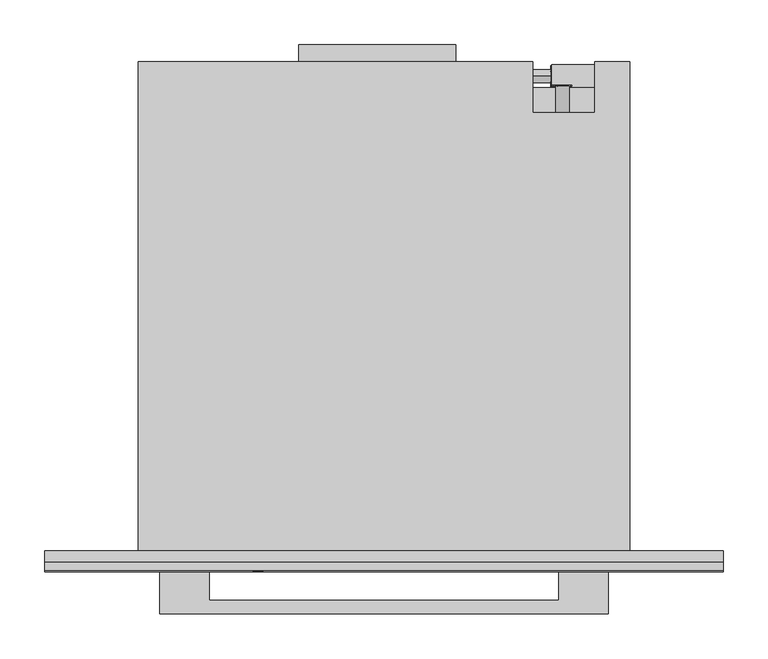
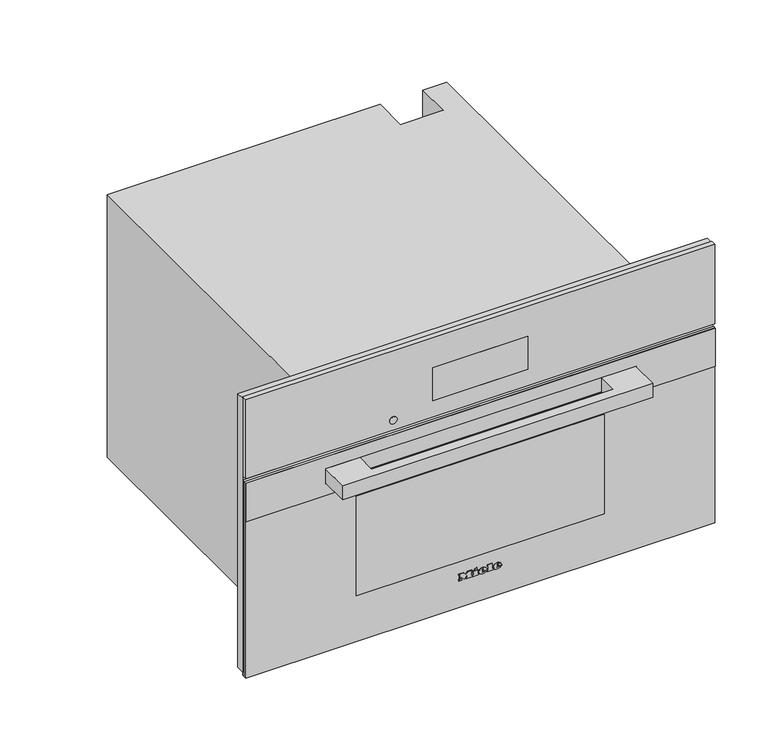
"""IFC4 building model written with IfcOpenShell, lengths in millimetres: proxy geometry, 11876050_USA_DGC7875_EDST-CLST : 23787542_USA_11876050_DGC7875_EDST-CLST."""

import ifcopenshell
import ifcopenshell.guid

model = None  # the IFC model being written
_history = None  # IfcOwnerHistory: only IFC2X3 demands one
_inside = {}  # id of a spatial element -> (the spatial element, [elements in it])
_under = {}  # id of a project, library or spatial element -> (it, [spatial elements below it])
_declared = {}  # id of a project -> (the project, [libraries it declares])
_typed = {}  # id of a type object -> (the type object, [elements of that type])
_made_of = {}  # id of a material, layer set ... -> (it, [elements and type objects made of it])


def new_model(schema):
    """Start an empty IFC model of exactly this schema.

    Asked for "IFC4X3", IfcOpenShell would pick the latest addendum, in which some entities
    have other attributes; the version numbers below select the first issue.
    IFC2X3 requires an IfcOwnerHistory on every rooted entity: one is made here for all.
    """
    global model, _history
    if schema == "IFC4X3":
        model = ifcopenshell.file(schema_version=(4, 3, 0, 0))
    else:
        model = ifcopenshell.file(schema=schema)
    _inside.clear()
    _under.clear()
    _declared.clear()
    _typed.clear()
    _made_of.clear()
    _history = None
    if model.schema == "IFC2X3":
        org = make("IfcOrganization", Name="unknown")
        user = make(
            "IfcPersonAndOrganization",
            ThePerson=make("IfcPerson", FamilyName="unknown"),
            TheOrganization=org,
        )
        app = make(
            "IfcApplication",
            ApplicationDeveloper=org,
            Version="unknown",
            ApplicationFullName="unknown",
            ApplicationIdentifier="unknown",
        )
        _history = make(
            "IfcOwnerHistory",
            OwningUser=user,
            OwningApplication=app,
            ChangeAction="ADDED",
            CreationDate=0,
        )
    return model


def make(cls, **values):
    """One entity of the class cls with the attributes given. An attribute that is None is left unset."""
    return model.create_entity(
        cls, **{name: value for name, value in values.items() if value is not None}
    )


def rooted(cls, **values):
    """An entity with a GlobalId (a new one), such as an element, a storey or a relation."""
    return make(cls, GlobalId=ifcopenshell.guid.new(), OwnerHistory=_history, **values)


def si_unit(unit_type, name, prefix=None):
    """IfcSIUnit, for example si_unit("LENGTHUNIT", "METRE", prefix="MILLI")."""
    return make("IfcSIUnit", UnitType=unit_type, Prefix=prefix, Name=name)


def assignment(units):
    """IfcUnitAssignment: the units of a project."""
    return None if units is None else make("IfcUnitAssignment", Units=units)


def point(xyz):
    """IfcCartesianPoint."""
    return None if xyz is None else make("IfcCartesianPoint", Coordinates=xyz)


def direction(xyz):
    """IfcDirection."""
    return None if xyz is None else make("IfcDirection", DirectionRatios=xyz)


def frame(location, z_axis=None, x_axis=None):
    """IfcAxis2Placement3D, a coordinate frame: its origin and axes. An axis left out is left unset."""
    return make(
        "IfcAxis2Placement3D",
        Location=point(location),
        Axis=direction(z_axis),
        RefDirection=direction(x_axis),
    )


def frame_2d(location, x_axis=None):
    """IfcAxis2Placement2D, a coordinate frame in the plane: its origin and x axis."""
    return make(
        "IfcAxis2Placement2D", Location=point(location), RefDirection=direction(x_axis)
    )


def origin():
    """The frame at (0, 0, 0) with its axes left unset."""
    return frame((0.0, 0.0, 0.0))


def place(relative_to, where):
    """IfcLocalPlacement: puts the frame where relative to a parent placement (None: the world)."""
    return make(
        "IfcLocalPlacement", PlacementRelTo=relative_to, RelativePlacement=where
    )


def context(
    kind, dimensions, precision=None, world=None, true_north=None, identifier=None
):
    """IfcGeometricRepresentationContext, for example the 3D "Model" context."""
    return make(
        "IfcGeometricRepresentationContext",
        ContextIdentifier=identifier,
        ContextType=kind,
        CoordinateSpaceDimension=dimensions,
        Precision=precision,
        WorldCoordinateSystem=world,
        TrueNorth=true_north,
    )


def project(units=None, contexts=None):
    """IfcProject with its units and contexts."""
    return rooted(
        "IfcProject",
        Name="project",
        RepresentationContexts=contexts,
        UnitsInContext=assignment(units),
    )


def spatial(cls, under=None, at=None, **own):
    """A site, building, storey or space (cls), placed at a placement, below another one or the project."""
    s = rooted(cls, ObjectPlacement=at, **own)
    if under is not None:
        _under.setdefault(under.id(), (under, []))[1].append(s)
    return s


def polyline(points):
    """IfcPolyline through the points."""
    return make("IfcPolyline", Points=[point(p) for p in points])


def circle_curve(where, radius):
    """IfcCircle in the frame where."""
    return make("IfcCircle", Position=where, Radius=radius)


def ellipse_curve(where, semi_axis1, semi_axis2):
    """IfcEllipse in the frame where."""
    return make(
        "IfcEllipse", Position=where, SemiAxis1=semi_axis1, SemiAxis2=semi_axis2
    )


def trimmed(basis, trim1, trim2, sense, master):
    """IfcTrimmedCurve: the piece of a basis curve between two trims."""
    return make(
        "IfcTrimmedCurve",
        BasisCurve=basis,
        Trim1=trim1,
        Trim2=trim2,
        SenseAgreement=sense,
        MasterRepresentation=master,
    )


def segment(curve, same_sense, transition):
    """IfcCompositeCurveSegment."""
    return make(
        "IfcCompositeCurveSegment",
        Transition=transition,
        SameSense=same_sense,
        ParentCurve=curve,
    )


def composite_curve(segments, self_intersect=None):
    """IfcCompositeCurve: segments joined end to end."""
    return make("IfcCompositeCurve", Segments=segments, SelfIntersect=self_intersect)


def outline(outer, holes=None, kind="AREA"):
    """IfcArbitraryClosedProfileDef: a profile drawn as a closed curve; with holes, ...WithVoids."""
    if holes is None:
        return make("IfcArbitraryClosedProfileDef", ProfileType=kind, OuterCurve=outer)
    return make(
        "IfcArbitraryProfileDefWithVoids",
        ProfileType=kind,
        OuterCurve=outer,
        InnerCurves=holes,
    )


def extrude(swept, where, along, depth):
    """IfcExtrudedAreaSolid: the profile swept, set in the frame where, extruded along a direction by depth."""
    return make(
        "IfcExtrudedAreaSolid",
        SweptArea=swept,
        Position=where,
        ExtrudedDirection=direction(along),
        Depth=depth,
    )


def faces_of(points, faces, orient=None, outer=None):
    """IfcFace entities. A face is a list of loops; a loop is a list of indices into points, from 0.

    orient and outer hold one flag for each loop. By default every Orientation is true, the
    first loop of a face is its IfcFaceOuterBound and the others are IfcFaceBound.
    """
    made = []
    for i, loops in enumerate(faces):
        bounds = []
        for j, loop in enumerate(loops):
            is_outer = j == 0 if outer is None else outer[i][j]
            bounds.append(
                make(
                    "IfcFaceOuterBound" if is_outer else "IfcFaceBound",
                    Bound=make("IfcPolyLoop", Polygon=[points[k] for k in loop]),
                    Orientation=True if orient is None else orient[i][j],
                )
            )
        made.append(make("IfcFace", Bounds=bounds))
    return made


def faceted_brep(points, faces, orient=None, outer=None, voids=None):
    """IfcFacetedBrep: a solid bounded by flat faces; with voids (closed shells), ...WithVoids."""
    shared = [point(p) for p in points]
    hull = make("IfcClosedShell", CfsFaces=faces_of(shared, faces, orient, outer))
    if voids is None:
        return make("IfcFacetedBrep", Outer=hull)
    return make(
        "IfcFacetedBrepWithVoids",
        Outer=hull,
        Voids=[
            make(cls, CfsFaces=faces_of(shared, fs, o, b)) for cls, fs, o, b in voids
        ],
    )


def shape(context_of_items, identifier, shape_type, items):
    """IfcShapeRepresentation: the items that make up one representation, for example the "Body"."""
    return make(
        "IfcShapeRepresentation",
        ContextOfItems=context_of_items,
        RepresentationIdentifier=identifier,
        RepresentationType=shape_type,
        Items=items,
    )


def source(mapping_origin, context_of_items, identifier, shape_type, items):
    """IfcRepresentationMap: a shape defined once, which mapped items show again and again."""
    return make(
        "IfcRepresentationMap",
        MappingOrigin=mapping_origin,
        MappedRepresentation=shape(context_of_items, identifier, shape_type, items),
    )


def transform(
    local_origin,
    x_axis=None,
    y_axis=None,
    z_axis=None,
    scale=None,
    scale2=None,
    scale3=None,
    uniform=True,
):
    """IfcCartesianTransformationOperator3D, or its non-uniform kind. x_axis, y_axis, z_axis: its Axis1, 2, 3."""
    if uniform:
        return make(
            "IfcCartesianTransformationOperator3D",
            Axis1=direction(x_axis),
            Axis2=direction(y_axis),
            LocalOrigin=point(local_origin),
            Scale=scale,
            Axis3=direction(z_axis),
        )
    return make(
        "IfcCartesianTransformationOperator3DnonUniform",
        Axis1=direction(x_axis),
        Axis2=direction(y_axis),
        LocalOrigin=point(local_origin),
        Scale=scale,
        Axis3=direction(z_axis),
        Scale2=scale2,
        Scale3=scale3,
    )


def mapped(mapping_source, mapping_target):
    """IfcMappedItem: shows the shape of a source again, moved by a transform."""
    return make(
        "IfcMappedItem", MappingSource=mapping_source, MappingTarget=mapping_target
    )


def made_of(thing, what):
    """Note that an element or type object is made of a material, layer set ...; save() writes the relation."""
    if what is not None:
        _made_of.setdefault(what.id(), (what, []))[1].append(thing)
    return thing


def element(
    cls,
    number,
    at=None,
    inside=None,
    cuts=None,
    type_object=None,
    material=None,
    context=None,
    identifier="Body",
    shape_type=None,
    held_by="IfcProductDefinitionShape",
    body=None,
    shapes=None,
    **own,
):
    """One element of the class cls, such as IfcWall. Its Tag is "e" and its number.

    at: its placement. inside: the storey or other place that contains it. cuts: it is an
    opening in that element (IfcRelVoidsElement). A single representation is given by context,
    identifier, shape_type and body (its items); several are given by shapes. held_by: the class
    of the entity that holds the representations. save() writes the other relations.
    """
    e = rooted(cls, Tag="e%d" % number, ObjectPlacement=at, **own)
    if body is not None:
        shapes = [shape(context, identifier, shape_type, body)]
    if shapes is not None:
        e.Representation = make(held_by, Representations=shapes)
    if inside is not None:
        _inside.setdefault(inside.id(), (inside, []))[1].append(e)
    if cuts is not None:
        rooted(
            "IfcRelVoidsElement", RelatingBuildingElement=cuts, RelatedOpeningElement=e
        )
    if type_object is not None:
        _typed.setdefault(type_object.id(), (type_object, []))[1].append(e)
    return made_of(e, material)


def aggregate(whole, parts):
    """IfcRelAggregates: a whole, such as a stair, and the parts it consists of."""
    return rooted("IfcRelAggregates", RelatingObject=whole, RelatedObjects=parts)


def save(model, path):
    """Write the relations noted so far, then the file.

    IfcRelAggregates (storeys below a building ...), IfcRelContainedInSpatialStructure (elements
    in a storey), IfcRelDefinesByType, IfcRelAssociatesMaterial and IfcRelDeclares: one each for
    every whole, place, type object, material and project.
    """
    for whole, parts in _under.values():
        aggregate(whole, parts)
    for where, things in _inside.values():
        rooted(
            "IfcRelContainedInSpatialStructure",
            RelatedElements=things,
            RelatingStructure=where,
        )
    for kind, things in _typed.values():
        rooted("IfcRelDefinesByType", RelatedObjects=things, RelatingType=kind)
    for what, things in _made_of.values():
        rooted("IfcRelAssociatesMaterial", RelatedObjects=things, RelatingMaterial=what)
    for by, libraries in _declared.values():
        rooted("IfcRelDeclares", RelatingContext=by, RelatedDefinitions=libraries)
    model.write(path)


def plane_surface(at):
    """IfcPlane: the flat surface through the origin of the frame at, square to its z axis."""
    return make("IfcPlane", Position=at)


def cylinder_surface(at, radius):
    """IfcCylindricalSurface: all points at the distance radius from the z axis of the frame at."""
    return make("IfcCylindricalSurface", Position=at, Radius=radius)


def revolved_surface(curve, axis_point, axis_direction):
    """IfcSurfaceOfRevolution: the curve turned about the line through axis_point along axis_direction."""
    return make(
        "IfcSurfaceOfRevolution",
        SweptCurve=make("IfcArbitraryOpenProfileDef", ProfileType="CURVE", Curve=curve),
        AxisPosition=make("IfcAxis1Placement", Location=point(axis_point), Axis=direction(axis_direction)),
    )


def extruded_surface(curve, direction_of_extrusion, depth):
    """IfcSurfaceOfLinearExtrusion: the curve pushed along a direction by depth."""
    return make(
        "IfcSurfaceOfLinearExtrusion",
        SweptCurve=make("IfcArbitraryOpenProfileDef", ProfileType="CURVE", Curve=curve),
        ExtrudedDirection=direction(direction_of_extrusion),
        Depth=depth,
    )


def advanced_brep(points, edges, surfaces, faces):
    """IfcAdvancedBrep: a solid bounded by faces that lie on surfaces and meet in shared edges.

    An edge is (start, end): straight between two places in points (the first is 0);
    or (start, end, curve); or (start, end, curve, False) where it runs against its curve.
    A face is (place in surfaces, loops), or (place, loops, False) where it looks against
    its surface's normal. A loop lists edges by number (the first is 1), with a minus sign
    where the edge is run from its end to its start. The first loop is the outer one.
    """
    corners = [point(p) for p in points]
    vertices = [make("IfcVertexPoint", VertexGeometry=c) for c in corners]
    made = []
    for start, end, *more in edges:
        made.append(
            make(
                "IfcEdgeCurve",
                EdgeStart=vertices[start],
                EdgeEnd=vertices[end],
                EdgeGeometry=more[0] if more else make("IfcPolyline", Points=[corners[start], corners[end]]),
                SameSense=more[1] if len(more) > 1 else True,
            )
        )
    hull = []
    for where, loops, *sense in faces:
        bounds = []
        for j, loop in enumerate(loops):
            ring = [make("IfcOrientedEdge", EdgeElement=made[abs(k) - 1], Orientation=k > 0) for k in loop]
            bounds.append(
                make(
                    "IfcFaceOuterBound" if j == 0 else "IfcFaceBound",
                    Bound=make("IfcEdgeLoop", EdgeList=ring),
                    Orientation=True,
                )
            )
        hull.append(make("IfcAdvancedFace", Bounds=bounds, FaceSurface=surfaces[where], SameSense=sense[0] if sense else True))
    return make("IfcAdvancedBrep", Outer=make("IfcClosedShell", CfsFaces=hull))


def specialty_equipment_21522c0e(model_context):
    return source(origin(), model_context, "Body", "SolidModel", [
        faceted_brep([(378.5, -13.0, 476.0), (-378.5, -13.0, 476.0), (-378.5, -13.0, 9.0), (-272.5, -13.0, 9.0), (-272.5, -13.0, 344.0), (272.5, -13.0, 344.0), (272.5, -13.0, 9.0), (378.5, -13.0, 9.0), (378.5, 0.0, 476.0), (378.5, 0.0, 9.0), (-378.5, 0.0, 9.0), (-378.5, 0.0, 476.0), (231.0, 0.0, 58.0), (231.0, 0.0, 286.0), (-231.0, 0.0, 286.0), (-231.0, 0.0, 58.0), (272.5, -5.0, 9.0), (-272.5, -5.0, 9.0), (-272.5, -5.0, 344.0), (272.5, -5.0, 344.0), (231.0, -5.0, 286.0), (231.0, -5.0, 58.0), (-231.0, -5.0, 58.0), (-231.0, -5.0, 286.0)], [[[0, 1, 2, 3, 4, 5, 6, 7]], [[8, 9, 10, 11], [12, 13, 14, 15]], [[1, 0, 8, 11]], [[2, 1, 11, 10]], [[10, 9, 7, 6, 16, 17, 3, 2]], [[0, 7, 9, 8]], [[18, 19, 5, 4]], [[18, 4, 3, 17]], [[5, 19, 16, 6]], [[19, 18, 17, 16], [20, 21, 22, 23]], [[20, 13, 12, 21]], [[21, 12, 15, 22]], [[22, 15, 14, 23]], [[13, 20, 23, 14]]]),
        extrude(outline(polyline([(-95.0, 565.0), (80.0, 565.0), (80.0, 546.0), (-95.0, 546.0), (-95.0, 565.0)])), frame((0.0, 0.0, 260.0), z_axis=(0.0, 0.0, 1.0), x_axis=(1.0, 0.0, 0.0)), (0.0, 0.0, 1.0), 1.0),
        extrude(outline(polyline([(224.8383288, 537.0), (231.1236409, 537.0), (231.1236409, 526.9492425), (229.8571792, 526.9492425), (229.8571792, 535.7409796), (224.8383288, 535.7409796), (224.8383288, 537.0)])), frame((0.0, 0.0, 132.0), z_axis=(0.0, 0.0, 1.0), x_axis=(1.0, 0.0, 0.0)), (0.0, 0.0, 1.0), 1.0),
        extrude(outline(polyline([(233.0, 537.0), (240.3797826, 537.0), (240.3797826, 526.9503529), (233.15422, 526.9503529), (233.15422, 528.220938), (239.1355215, 528.220938), (239.1355215, 531.1975645), (233.4863097, 531.1975645), (233.4863097, 532.449242), (239.1355215, 532.449242), (239.1355215, 535.7448633), (233.0, 535.7448633), (233.0, 537.0)])), frame((0.0, 0.0, 132.0), z_axis=(0.0, 0.0, 1.0), x_axis=(1.0, 0.0, 0.0)), (0.0, 0.0, 1.0), 1.0),
        extrude(outline(polyline([(519.6429442, 19.9943805), (518.3113439, 19.9943805), (522.3179353, 30.0448542), (523.3959224, 30.0448542), (527.4062166, 20.0), (526.0536081, 20.0), (524.9175759, 23.121223), (520.7810217, 23.121223), (519.6429442, 19.9943805)]), holes=[polyline([(521.2587176, 24.4336815), (524.43988, 24.4336815), (522.8492988, 28.8037675), (521.2587176, 24.4336815)])]), frame((186.0, 0.0, 0.0), z_axis=(1.0, 0.0, 0.0), x_axis=(0.0, 1.0, 0.0)), (0.0, 0.0, 1.0), 1.0),
        extrude(outline(polyline([(530.5321321, 20.0), (527.8018067, 30.0490432), (529.0968223, 30.0490432), (531.1602937, 21.4201336), (533.686646, 30.0556718), (535.5455392, 30.0556718), (538.1024658, 21.4662572), (540.1658975, 30.0556718), (541.4634812, 30.0556718), (538.7128319, 20.0), (537.3799359, 20.0), (534.6350025, 28.8403806), (532.048723, 20.0), (530.5321321, 20.0)])), frame((186.0, 0.0, 0.0), z_axis=(1.0, 0.0, 0.0), x_axis=(0.0, 1.0, 0.0)), (0.0, 0.0, 1.0), 1.0),
        extrude(outline(composite_curve([segment(trimmed(circle_curve(frame_2d((233.0, 532.0)), 7.5), [point((225.5, 532.0))], [point((240.5, 532.0))], False, "CARTESIAN"), True, "CONTINUOUS"), segment(trimmed(circle_curve(frame_2d((233.0, 532.0)), 7.5), [point((240.5, 532.0))], [point((225.5, 532.0))], False, "CARTESIAN"), True, "CONTINUOUS")], self_intersect=False)), frame((0.0, 0.0, 133.0), z_axis=(0.0, 0.0, 1.0), x_axis=(1.0, 0.0, 0.0)), (0.0, 0.0, 1.0), 30.0),
        extrude(outline(polyline([(266.0, 517.0), (187.0, 517.0), (187.0, 543.0), (266.0, 543.0), (266.0, 517.0)])), frame((0.0, 0.0, 163.0), z_axis=(0.0, 0.0, 1.0), x_axis=(1.0, 0.0, 0.0)), (0.0, 0.0, 1.0), 111.0),
        extrude(outline(polyline([(383.0, 196.9217896), (383.0, 198.4267862), (393.0435673, 201.1942402), (393.0435673, 199.9014806), (384.4295103, 197.7797951), (393.0470645, 195.3087512), (393.0470645, 193.4373937), (384.4121052, 190.9191482), (393.0472266, 188.8443938), (393.0472266, 187.5376524), (383.0, 190.2769667), (383.0, 191.6257455), (391.8347238, 194.3884733), (383.0, 196.9217896)])), frame((0.0, 519.0, 0.0), z_axis=(0.0, 1.0, 0.0), x_axis=(0.0, 0.0, 1.0)), (0.0, 0.0, 1.0), 1.0),
        extrude(outline(polyline([(393.0468463, 209.521488), (393.0468463, 208.2566067), (388.129594, 208.2566067), (393.0474898, 203.1074328), (393.0474898, 201.3597489), (388.9313111, 205.6695027), (383.0, 201.1858157), (383.0, 202.7358731), (388.0700777, 206.5685235), (386.4282746, 208.2823622), (383.0, 208.2823622), (383.0, 209.521488), (393.0468463, 209.521488)])), frame((0.0, 519.0, 0.0), z_axis=(0.0, 1.0, 0.0), x_axis=(0.0, 0.0, 1.0)), (0.0, 0.0, 1.0), 1.0),
        extrude(outline(composite_curve([segment(trimmed(circle_curve(frame_2d((388.0, 199.0)), 7.5), [point((388.0, 206.5))], [point((388.0, 191.5))], False, "CARTESIAN"), True, "CONTINUOUS"), segment(trimmed(circle_curve(frame_2d((388.0, 199.0)), 7.5), [point((388.0, 191.5))], [point((388.0, 206.5))], False, "CARTESIAN"), True, "CONTINUOUS")], self_intersect=False)), frame((0.0, 489.0, 0.0), z_axis=(0.0, 1.0, 0.0), x_axis=(0.0, 0.0, 1.0)), (0.0, 0.0, 1.0), 30.0),
        extrude(outline(composite_curve([segment(trimmed(circle_curve(frame_2d((530.0, 25.0)), 7.5), [point((530.0, 17.5))], [point((530.0, 32.5))], False, "CARTESIAN"), True, "CONTINUOUS"), segment(trimmed(circle_curve(frame_2d((530.0, 25.0)), 7.5), [point((530.0, 32.5))], [point((530.0, 17.5))], False, "CARTESIAN"), True, "CONTINUOUS")], self_intersect=False)), frame((166.0, 0.0, 0.0), z_axis=(1.0, 0.0, 0.0), x_axis=(0.0, 1.0, 0.0)), (0.0, 0.0, 1.0), 20.0),
        faceted_brep([(-274.0, 546.0, 0.0), (-274.0, 546.0, 448.0), (166.0, 546.0, 448.0), (166.0, 546.0, 0.0), (235.0, 546.0, 448.0), (274.0, 546.0, 448.0), (274.0, 546.0, 338.0), (235.0, 546.0, 338.0), (274.0, 0.0, 448.0), (-274.0, 0.0, 448.0), (-274.0, 0.0, 0.0), (274.0, 0.0, 0.0), (231.0, 0.0, 286.0), (231.0, 0.0, 58.0), (-231.0, 0.0, 58.0), (-231.0, 0.0, 286.0), (235.0, 489.0, 448.0), (166.0, 489.0, 448.0), (166.0, 517.0, 0.0), (274.0, 517.0, 0.0), (274.0, 517.0, 338.0), (231.0, 411.0, 286.0), (-231.0, 411.0, 286.0), (-231.0, 411.0, 58.0), (231.0, 411.0, 58.0), (235.0, 489.0, 337.0), (166.0, 489.0, 337.0), (166.0, 517.0, 337.0), (235.0, 517.0, 337.0), (235.0, 517.0, 338.0)], [[[0, 1, 2, 3]], [[4, 5, 6, 7]], [[8, 9, 10, 11], [12, 13, 14, 15]], [[9, 8, 5, 4, 16, 17, 2, 1]], [[1, 0, 10, 9]], [[11, 10, 0, 3, 18, 19]], [[8, 11, 19, 20, 6, 5]], [[21, 22, 23, 24]], [[21, 24, 13, 12]], [[24, 23, 14, 13]], [[23, 22, 15, 14]], [[22, 21, 12, 15]], [[16, 25, 26, 17]], [[17, 26, 27, 18, 3, 2]], [[26, 25, 28, 27]], [[25, 16, 4, 7, 29, 28]], [[29, 20, 19, 18, 27, 28]], [[20, 29, 7, 6]]]),
        advanced_brep(
        [(26.2998, -23.0, 52.7018), (26.2998, -23.0, 53.8532), (33.9264, -23.0, 53.8532), (20.6568, -23.0, 53.8532), (23.7918, -23.0, 50.0), (33.7326, -23.0, 52.7018), (30.2898, -23.0, 52.7018), (27.5766, -23.0, 51.425), (26.2998, -23.0, 55.3124), (26.2998, -23.0, 56.555), (28.2492, -23.0, 56.555), (28.2492, -23.0, 55.3124), (26.2998, -22.0, 52.7018), (27.5766, -22.0, 51.425), (30.2898, -22.0, 52.7018), (33.7326, -22.0, 52.7018), (23.7918, -22.0, 50.0), (20.6568, -22.0, 53.8532), (33.9264, -22.0, 53.8532), (26.2998, -22.0, 53.8532), (26.2998, -22.0, 55.3124), (28.2492, -22.0, 55.3124), (28.2492, -22.0, 56.555), (26.2998, -22.0, 56.555)],
        [
            (0, 1),
            (1, 2),
            (2, 3, ellipse_curve(frame((27.2916, -23.0, 53.8532), z_axis=(0.0, -1.0, 0.0), x_axis=(-1.0, 0.0, 0.0)), 6.6348, 5.4834)),
            (3, 4, circle_curve(frame((25.0686622, -23.0, 54.2408), z_axis=(0.0, -1.0, 0.0), x_axis=(0.0, 0.0, -1.0)), 4.4288556)),
            (4, 5, circle_curve(frame((27.1587808, -23.0, 57.2504), z_axis=(0.0, -1.0, 0.0), x_axis=(0.0, 0.0, -1.0)), 7.9940516)),
            (5, 6),
            (6, 7, circle_curve(frame((28.1338588, -23.0, 53.762), z_axis=(0.0, 1.0, 0.0), x_axis=(0.0, 0.0, -1.0)), 2.4025208)),
            (7, 0, circle_curve(frame((27.5766, -23.0, 52.7018), z_axis=(0.0, 1.0, 0.0), x_axis=(0.0, 0.0, -1.0)), 1.2768)),
            (8, 9),
            (9, 10, circle_curve(frame((27.2745, -23.0, 56.555), z_axis=(0.0, 1.0, 0.0), x_axis=(0.0, 0.0, -1.0)), 0.9747)),
            (10, 11),
            (11, 8),
            (12, 13, circle_curve(frame((27.5766, -22.0, 52.7018), z_axis=(0.0, -1.0, 0.0), x_axis=(0.0, 0.0, -1.0)), 1.2768)),
            (13, 14, circle_curve(frame((28.1338588, -22.0, 53.762), z_axis=(0.0, -1.0, 0.0), x_axis=(0.0, 0.0, -1.0)), 2.4025208)),
            (14, 15),
            (15, 16, circle_curve(frame((27.1587808, -22.0, 57.2504), z_axis=(0.0, 1.0, 0.0), x_axis=(0.0, 0.0, -1.0)), 7.9940516)),
            (16, 17, circle_curve(frame((25.0686622, -22.0, 54.2408), z_axis=(0.0, 1.0, 0.0), x_axis=(0.0, 0.0, -1.0)), 4.4288556)),
            (17, 18, ellipse_curve(frame((27.2916, -22.0, 53.8532), z_axis=(0.0, 1.0, 0.0), x_axis=(-1.0, 0.0, 0.0)), 6.6348, 5.4834)),
            (18, 19),
            (19, 12),
            (20, 21),
            (21, 22),
            (22, 23, circle_curve(frame((27.2745, -22.0, 56.555), z_axis=(0.0, -1.0, 0.0), x_axis=(0.0, 0.0, -1.0)), 0.9747)),
            (23, 20),
            (0, 12),
            (19, 1),
            (18, 2),
            (5, 15),
            (14, 6),
            (17, 3),
            (13, 7),
            (16, 4),
            (8, 20),
            (23, 9),
            (22, 10),
            (21, 11),
        ],
        [
            plane_surface(frame((26.2998, -23.0, 53.8532), z_axis=(0.0, -1.0, 0.0), x_axis=(0.0, 0.0, 1.0))),
            plane_surface(frame((26.2998, -22.0, 53.8532), z_axis=(0.0, 1.0, 0.0), x_axis=(0.0, 0.0, -1.0))),
            plane_surface(frame((26.2998, -23.0, 52.7018), z_axis=(1.0, 0.0, 0.0), x_axis=(0.0, 1.0, 0.0))),
            plane_surface(frame((26.2998, -23.0, 53.8532), z_axis=(0.0, 0.0, -1.0), x_axis=(0.0, 1.0, 0.0))),
            plane_surface(frame((33.7326, -23.0, 52.7018), z_axis=(0.0, 0.0, 1.0), x_axis=(0.0, 1.0, 0.0))),
            extruded_surface(trimmed(ellipse_curve(frame((27.2916, -21.0, 53.8532), z_axis=(0.0, -1.0, 0.0), x_axis=(-1.0, 0.0, 0.0)), 6.6348, 5.4834), [point((33.9264, -21.0, 53.8532))], [point((20.6568, -21.0, 53.8532))], True, "CARTESIAN"), (0.0, -1.0, 0.0), 1.0),
            revolved_surface(polyline([(28.1338588, -22.0, 51.3594792), (28.1338588, -23.0, 51.3594792)]), (28.1338588, -22.0, 53.762), (0.0, 1.0, 0.0)),
            revolved_surface(polyline([(27.5766, -22.0, 51.425), (27.5766, -23.0, 51.425)]), (27.5766, -22.0, 52.7018), (0.0, 1.0, 0.0)),
            cylinder_surface(frame((25.0686622, -22.0, 54.2408), z_axis=(0.0, -1.0, 0.0), x_axis=(0.0, 0.0, -1.0)), 4.4288556),
            cylinder_surface(frame((27.1587808, -22.0, 57.2504), z_axis=(0.0, -1.0, 0.0), x_axis=(0.0, 0.0, -1.0)), 7.9940516),
            plane_surface(frame((26.2998, -23.0, 55.3124), z_axis=(1.0, 0.0, 0.0), x_axis=(0.0, 1.0, 0.0))),
            revolved_surface(polyline([(27.2745, -22.0, 55.5803), (27.2745, -23.0, 55.5803)]), (27.2745, -22.0, 56.555), (0.0, 1.0, 0.0)),
            plane_surface(frame((28.2492, -23.0, 56.555), z_axis=(-1.0, 0.0, 0.0), x_axis=(0.0, 1.0, 0.0))),
            plane_surface(frame((28.2492, -23.0, 55.3124), z_axis=(0.0, 0.0, 1.0), x_axis=(0.0, 1.0, 0.0))),
        ],
        [
            (0, [[1, 2, 3, 4, 5, 6, 7, 8], [9, 10, 11, 12]]),
            (1, [[13, 14, 15, 16, 17, 18, 19, 20], [21, 22, 23, 24]]),
            (2, [[-1, 25, -20, 26]]),
            (3, [[-2, -26, -19, 27]]),
            (4, [[-6, 28, -15, 29]]),
            (5, [[-3, -27, -18, 30]]),
            (6, [[-7, -29, -14, 31]]),
            (7, [[-8, -31, -13, -25]]),
            (8, [[-4, -30, -17, 32]]),
            (9, [[-5, -32, -16, -28]]),
            (10, [[-9, 33, -24, 34]]),
            (11, [[-10, -34, -23, 35]]),
            (12, [[-11, -35, -22, 36]]),
            (13, [[-12, -36, -21, -33]]),
        ],
    ),
        advanced_brep(
        [(2.508, -23.0, 52.7018), (2.508, -23.0, 53.8532), (10.1346, -23.0, 53.8532), (-3.135, -23.0, 53.8532), (0.0, -23.0, 50.0), (9.9408, -23.0, 52.7018), (6.498, -23.0, 52.7018), (3.7848, -23.0, 51.425), (2.508, -23.0, 55.3124), (2.508, -23.0, 56.555), (4.4574, -23.0, 56.555), (4.4574, -23.0, 55.3124), (2.508, -22.0, 52.7018), (3.7848, -22.0, 51.425), (6.498, -22.0, 52.7018), (9.9408, -22.0, 52.7018), (0.0, -22.0, 50.0), (-3.135, -22.0, 53.8532), (10.1346, -22.0, 53.8532), (2.508, -22.0, 53.8532), (2.508, -22.0, 55.3124), (4.4574, -22.0, 55.3124), (4.4574, -22.0, 56.555), (2.508, -22.0, 56.555)],
        [
            (0, 1),
            (1, 2),
            (2, 3, ellipse_curve(frame((3.4998, -23.0, 53.8532), z_axis=(0.0, -1.0, 0.0), x_axis=(-1.0, 0.0, 0.0)), 6.6348, 5.4834)),
            (3, 4, circle_curve(frame((1.2768622, -23.0, 54.2408), z_axis=(0.0, -1.0, 0.0), x_axis=(0.0, 0.0, -1.0)), 4.4288556)),
            (4, 5, circle_curve(frame((3.3669808, -23.0, 57.2504), z_axis=(0.0, -1.0, 0.0), x_axis=(0.0, 0.0, -1.0)), 7.9940516)),
            (5, 6),
            (6, 7, circle_curve(frame((4.3420588, -23.0, 53.762), z_axis=(0.0, 1.0, 0.0), x_axis=(0.0, 0.0, -1.0)), 2.4025208)),
            (7, 0, circle_curve(frame((3.7848, -23.0, 52.7018), z_axis=(0.0, 1.0, 0.0), x_axis=(0.0, 0.0, -1.0)), 1.2768)),
            (8, 9),
            (9, 10, circle_curve(frame((3.4827, -23.0, 56.555), z_axis=(0.0, 1.0, 0.0), x_axis=(0.0, 0.0, -1.0)), 0.9747)),
            (10, 11),
            (11, 8),
            (12, 13, circle_curve(frame((3.7848, -22.0, 52.7018), z_axis=(0.0, -1.0, 0.0), x_axis=(0.0, 0.0, -1.0)), 1.2768)),
            (13, 14, circle_curve(frame((4.3420588, -22.0, 53.762), z_axis=(0.0, -1.0, 0.0), x_axis=(0.0, 0.0, -1.0)), 2.4025208)),
            (14, 15),
            (15, 16, circle_curve(frame((3.3669808, -22.0, 57.2504), z_axis=(0.0, 1.0, 0.0), x_axis=(0.0, 0.0, -1.0)), 7.9940516)),
            (16, 17, circle_curve(frame((1.2768622, -22.0, 54.2408), z_axis=(0.0, 1.0, 0.0), x_axis=(0.0, 0.0, -1.0)), 4.4288556)),
            (17, 18, ellipse_curve(frame((3.4998, -22.0, 53.8532), z_axis=(0.0, 1.0, 0.0), x_axis=(-1.0, 0.0, 0.0)), 6.6348, 5.4834)),
            (18, 19),
            (19, 12),
            (20, 21),
            (21, 22),
            (22, 23, circle_curve(frame((3.4827, -22.0, 56.555), z_axis=(0.0, -1.0, 0.0), x_axis=(0.0, 0.0, -1.0)), 0.9747)),
            (23, 20),
            (0, 12),
            (19, 1),
            (18, 2),
            (5, 15),
            (14, 6),
            (17, 3),
            (13, 7),
            (16, 4),
            (8, 20),
            (23, 9),
            (22, 10),
            (21, 11),
        ],
        [
            plane_surface(frame((2.508, -23.0, 53.8532), z_axis=(0.0, -1.0, 0.0), x_axis=(0.0, 0.0, 1.0))),
            plane_surface(frame((2.508, -22.0, 53.8532), z_axis=(0.0, 1.0, 0.0), x_axis=(0.0, 0.0, -1.0))),
            plane_surface(frame((2.508, -23.0, 52.7018), z_axis=(1.0, 0.0, 0.0), x_axis=(0.0, 1.0, 0.0))),
            plane_surface(frame((2.508, -23.0, 53.8532), z_axis=(0.0, 0.0, -1.0), x_axis=(0.0, 1.0, 0.0))),
            plane_surface(frame((9.9408, -23.0, 52.7018), z_axis=(0.0, 0.0, 1.0), x_axis=(0.0, 1.0, 0.0))),
            extruded_surface(trimmed(ellipse_curve(frame((3.4998, -21.0, 53.8532), z_axis=(0.0, -1.0, 0.0), x_axis=(-1.0, 0.0, 0.0)), 6.6348, 5.4834), [point((10.1346, -21.0, 53.8532))], [point((-3.135, -21.0, 53.8532))], True, "CARTESIAN"), (0.0, -1.0, 0.0), 1.0),
            revolved_surface(polyline([(4.3420588, -22.0, 51.3594792), (4.3420588, -23.0, 51.3594792)]), (4.3420588, -22.0, 53.762), (0.0, 1.0, 0.0)),
            revolved_surface(polyline([(3.7848, -22.0, 51.425), (3.7848, -23.0, 51.425)]), (3.7848, -22.0, 52.7018), (0.0, 1.0, 0.0)),
            cylinder_surface(frame((1.2768622, -22.0, 54.2408), z_axis=(0.0, -1.0, 0.0), x_axis=(0.0, 0.0, -1.0)), 4.4288556),
            cylinder_surface(frame((3.3669808, -22.0, 57.2504), z_axis=(0.0, -1.0, 0.0), x_axis=(0.0, 0.0, -1.0)), 7.9940516),
            plane_surface(frame((2.508, -23.0, 55.3124), z_axis=(1.0, 0.0, 0.0), x_axis=(0.0, 1.0, 0.0))),
            revolved_surface(polyline([(3.4827, -22.0, 55.5803), (3.4827, -23.0, 55.5803)]), (3.4827, -22.0, 56.555), (0.0, 1.0, 0.0)),
            plane_surface(frame((4.4574, -23.0, 56.555), z_axis=(-1.0, 0.0, 0.0), x_axis=(0.0, 1.0, 0.0))),
            plane_surface(frame((4.4574, -23.0, 55.3124), z_axis=(0.0, 0.0, 1.0), x_axis=(0.0, 1.0, 0.0))),
        ],
        [
            (0, [[1, 2, 3, 4, 5, 6, 7, 8], [9, 10, 11, 12]]),
            (1, [[13, 14, 15, 16, 17, 18, 19, 20], [21, 22, 23, 24]]),
            (2, [[-1, 25, -20, 26]]),
            (3, [[-2, -26, -19, 27]]),
            (4, [[-6, 28, -15, 29]]),
            (5, [[-3, -27, -18, 30]]),
            (6, [[-7, -29, -14, 31]]),
            (7, [[-8, -31, -13, -25]]),
            (8, [[-4, -30, -17, 32]]),
            (9, [[-5, -32, -16, -28]]),
            (10, [[-9, 33, -24, 34]]),
            (11, [[-10, -34, -23, 35]]),
            (12, [[-11, -35, -22, 36]]),
            (13, [[-12, -36, -21, -33]]),
        ],
    ),
        extrude(outline(polyline([(60.7274, -9.9522), (58.8806, -9.0858), (60.6818, -5.2212), (62.5286, -6.0762), (60.7274, -9.9522)])), frame((0.0, -23.0, 0.0), z_axis=(0.0, 1.0, 0.0), x_axis=(0.0, 0.0, 1.0)), (0.0, 0.0, 1.0), 1.0),
        extrude(outline(polyline([(58.6298, -12.768), (56.5892, -12.768), (56.5892, -11.4114), (51.9152, -11.4114), (51.9152, -12.768), (50.0, -12.768), (50.0, -3.7734), (51.9152, -3.7734), (51.9152, -5.0958), (58.6298, -5.0958), (58.6298, -12.768)])), frame((0.0, -23.0, 0.0), z_axis=(0.0, 1.0, 0.0), x_axis=(0.0, 0.0, 1.0)), (0.0, 0.0, 1.0), 1.0),
        extrude(outline(polyline([(59.5418, 10.773), (59.5418, 12.141), (51.9152, 12.141), (51.9152, 10.773), (50.0, 10.773), (50.0, 20.0184), (51.9152, 20.0184), (51.9152, 18.6162), (61.4, 18.6162), (61.4, 10.773), (59.5418, 10.773)])), frame((0.0, -23.0, 0.0), z_axis=(0.0, 1.0, 0.0), x_axis=(0.0, 0.0, 1.0)), (0.0, 0.0, 1.0), 1.0),
        extrude(outline(polyline([(59.5418, -35.4882), (59.5418, -34.1088), (51.9152, -34.1088), (51.9152, -35.4882), (50.0, -35.4882), (50.0, -30.4722), (51.9152, -30.4722), (51.9152, -31.8402), (56.7429247, -31.8402), (50.0, -26.7444), (56.9402223, -21.6258), (51.9152, -21.6258), (51.9152, -23.028), (50.0, -23.028), (50.0, -13.9308), (51.9152, -13.9308), (51.9152, -15.3786), (59.5418, -15.3786), (59.5418, -13.9308), (61.4, -13.9308), (61.4, -20.8734), (57.125, -24.2022), (61.4, -27.5424), (61.4, -35.4882), (59.5418, -35.4882)])), frame((0.0, -23.0, 0.0), z_axis=(0.0, 1.0, 0.0), x_axis=(0.0, 0.0, 1.0)), (0.0, 0.0, 1.0), 1.0),
        extrude(outline(composite_curve([segment(trimmed(circle_curve(frame_2d((361.0, -140.5745637)), 6.0), [point((361.0, -146.5745637))], [point((361.0, -134.5745637))], False, "CARTESIAN"), True, "CONTINUOUS"), segment(trimmed(circle_curve(frame_2d((361.0, -140.5745637)), 6.0), [point((361.0, -134.5745637))], [point((361.0, -146.5745637))], False, "CARTESIAN"), True, "CONTINUOUS")], self_intersect=False)), frame((0.0, -22.5, 0.0), z_axis=(0.0, 1.0, 0.0), x_axis=(0.0, 0.0, 1.0)), (0.0, 0.0, 1.0), 1.0),
        extrude(outline(polyline([(-76.5, -21.0), (76.5, -21.0), (76.5, -22.0), (-76.5, -22.0), (-76.5, -21.0)])), frame((0.0, 0.0, 372.0), z_axis=(0.0, 0.0, 1.0), x_axis=(1.0, 0.0, 0.0)), (0.0, 0.0, 1.0), 56.0),
        faceted_brep([(378.5, -22.0, 479.0), (-378.5, -22.0, 479.0), (-378.5, -22.0, 344.0), (378.5, -22.0, 344.0), (76.5, -22.0, 428.0), (76.5, -22.0, 372.0), (-76.5, -22.0, 372.0), (-76.5, -22.0, 428.0), (378.5, -13.0, 479.0), (378.5, -13.0, 344.0), (-378.5, -13.0, 344.0), (-378.5, -13.0, 479.0), (76.5, -21.0, 428.0), (-76.5, -21.0, 428.0), (-76.5, -21.0, 372.0), (76.5, -21.0, 372.0)], [[[0, 1, 2, 3], [4, 5, 6, 7]], [[8, 9, 10, 11]], [[1, 0, 8, 11]], [[2, 1, 11, 10]], [[3, 2, 10, 9]], [[0, 3, 9, 8]], [[12, 13, 14, 15]], [[12, 15, 5, 4]], [[15, 14, 6, 5]], [[14, 13, 7, 6]], [[13, 12, 4, 7]]]),
        extrude(outline(polyline([(200.0, -22.0), (-200.0, -22.0), (-200.0, -18.0), (200.0, -18.0), (200.0, -22.0)])), frame((0.0, 0.0, 82.0), z_axis=(0.0, 0.0, 1.0), x_axis=(1.0, 0.0, 0.0)), (0.0, 0.0, 1.0), 170.0),
        extrude(outline(polyline([(337.0, 378.5), (337.0, -378.5), (4.0, -378.5), (4.0, 378.5), (337.0, 378.5)]), holes=[polyline([(252.0, -200.0), (252.0, 200.0), (82.0, 200.0), (82.0, -200.0), (252.0, -200.0)])]), frame((0.0, -22.0, 0.0), z_axis=(0.0, 1.0, 0.0), x_axis=(0.0, 0.0, 1.0)), (0.0, 0.0, 1.0), 4.0),
        extrude(outline(polyline([(337.0, 378.5), (337.0, -378.5), (272.0, -378.5), (272.0, 378.5), (337.0, 378.5)]), holes=[polyline([(317.0, -250.5), (317.0, 250.5), (292.0, 250.5), (292.0, -250.5), (317.0, -250.5)])]), frame((0.0, -23.3, 0.0), z_axis=(0.0, 1.0, 0.0), x_axis=(0.0, 0.0, 1.0)), (0.0, 0.0, 1.0), 1.3),
        extrude(outline(polyline([(-250.0, -70.3), (-250.0, -22.0), (-195.0, -22.0), (-195.0, -55.3), (195.0, -55.3), (195.0, -22.0), (250.0, -22.0), (250.0, -70.3), (-250.0, -70.3)])), frame((0.0, 0.0, 292.5), z_axis=(0.0, 0.0, 1.0), x_axis=(1.0, 0.0, 0.0)), (0.0, 0.0, 1.0), 24.0),
        extrude(outline(polyline([(378.5, -18.0), (-378.5, -18.0), (-378.5, -13.0), (378.5, -13.0), (378.5, -18.0)])), frame((0.0, 0.0, 4.0), z_axis=(0.0, 0.0, 1.0), x_axis=(1.0, 0.0, 0.0)), (0.0, 0.0, 1.0), 333.0),
    ])


if __name__ == "__main__":
    model = new_model("IFC4")
    model_context = context("Model", 3, world=origin())
    ifc_project = project(units=[si_unit("LENGTHUNIT", "METRE", prefix="MILLI")], contexts=[model_context])
    site = spatial("IfcSite", under=ifc_project)
    building = spatial("IfcBuilding", under=site)
    placement = place(None, origin())
    specialty_equipment_shape = specialty_equipment_21522c0e(model_context)
    element("IfcBuildingElementProxy", 1, Name="11876050_USA_DGC7875_EDST-CLST : 23787542_USA_11876050_DGC7875_EDST-CLST", ObjectType="11876050_USA_DGC7875_EDST-CLST : 23787542_USA_11876050_DGC7875_EDST-CLST", at=placement, inside=building, context=model_context, shape_type="MappedRepresentation", body=[
        mapped(specialty_equipment_shape, transform((0.0, 0.0, 0.0), x_axis=(1.0, 0.0, 0.0), y_axis=(0.0, 1.0, 0.0), z_axis=(0.0, 0.0, 1.0))),
    ])
    save(model, "model.ifc")
